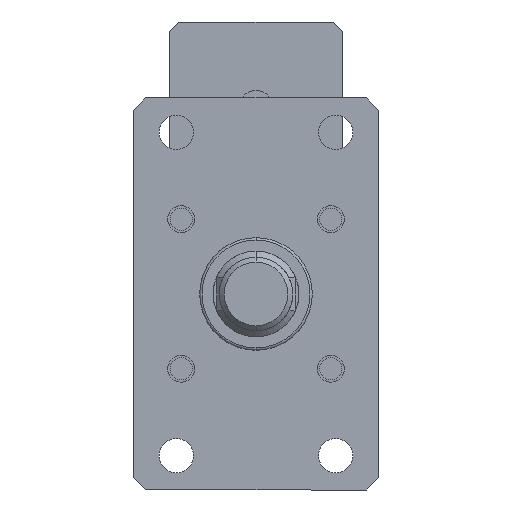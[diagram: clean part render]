
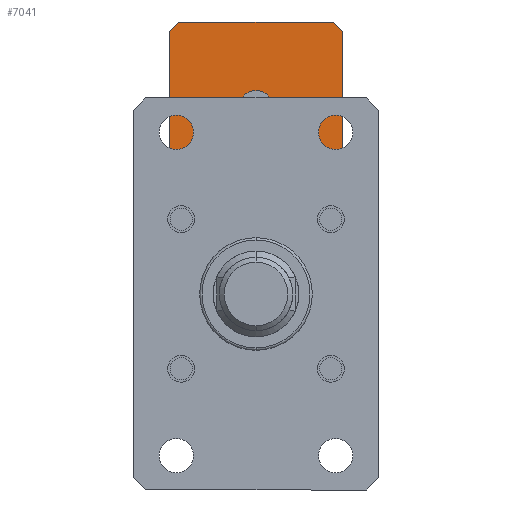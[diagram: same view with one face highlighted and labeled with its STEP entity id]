
A CAD part, front view. The second image highlights one B-rep face of the part: STEP entity #7041.
In plain terms, the highlighted planar face has unit normal (0, -1, 0).
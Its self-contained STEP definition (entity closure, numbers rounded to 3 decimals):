
#180 = CARTESIAN_POINT ( 'NONE',  ( -31.5, 260., 111. ) ) ;
#206 = ORIENTED_EDGE ( 'NONE', *, *, #6447, .T. ) ;
#386 = VECTOR ( 'NONE', #1505, 1000. ) ;
#566 = EDGE_CURVE ( 'NONE', #1310, #7000, #2144, .T. ) ;
#680 = DIRECTION ( 'NONE',  ( -0.707, 0., -0.707 ) ) ;
#701 = EDGE_CURVE ( 'NONE', #982, #3242, #1027, .T. ) ;
#706 = DIRECTION ( 'NONE',  ( 0., 0., -1. ) ) ;
#842 = CARTESIAN_POINT ( 'NONE',  ( 0., 260., 68. ) ) ;
#982 = VERTEX_POINT ( 'NONE', #2552 ) ;
#1027 = LINE ( 'NONE', #4876, #2406 ) ;
#1055 = CARTESIAN_POINT ( 'NONE',  ( 35.5, 260., 111. ) ) ;
#1138 = ORIENTED_EDGE ( 'NONE', *, *, #6400, .T. ) ;
#1310 = VERTEX_POINT ( 'NONE', #5130 ) ;
#1505 = DIRECTION ( 'NONE',  ( 0.707, 0., 0.707 ) ) ;
#1611 = CARTESIAN_POINT ( 'NONE',  ( -35.5, 260., 111. ) ) ;
#1628 = EDGE_CURVE ( 'NONE', #4103, #3195, #3230, .T. ) ;
#1644 = DIRECTION ( 'NONE',  ( 0., -1., 0. ) ) ;
#1655 = DIRECTION ( 'NONE',  ( 0., 0., -1. ) ) ;
#1659 = VERTEX_POINT ( 'NONE', #842 ) ;
#1776 = DIRECTION ( 'NONE',  ( 0., -1., 0. ) ) ;
#1791 = ORIENTED_EDGE ( 'NONE', *, *, #1628, .T. ) ;
#1815 = EDGE_CURVE ( 'NONE', #4862, #1659, #5973, .T. ) ;
#1866 = EDGE_LOOP ( 'NONE', ( #206, #3656, #2115, #5417, #3407, #1791, #6721, #1138 ) ) ;
#1884 = CARTESIAN_POINT ( 'NONE',  ( -31.5, 260., 111. ) ) ;
#1932 = DIRECTION ( 'NONE',  ( 0.707, 0., -0.707 ) ) ;
#2115 = ORIENTED_EDGE ( 'NONE', *, *, #4277, .T. ) ;
#2144 = LINE ( 'NONE', #6846, #386 ) ;
#2299 = CARTESIAN_POINT ( 'NONE',  ( -35.5, 260., 111. ) ) ;
#2380 = FACE_OUTER_BOUND ( 'NONE', #1866, .T. ) ;
#2406 = VECTOR ( 'NONE', #1932, 1000. ) ;
#2503 = CARTESIAN_POINT ( 'NONE',  ( -35.5, 260., 111. ) ) ;
#2513 = VERTEX_POINT ( 'NONE', #5570 ) ;
#2552 = CARTESIAN_POINT ( 'NONE',  ( -35.5, 260., 44. ) ) ;
#2613 = VECTOR ( 'NONE', #7048, 1000. ) ;
#2782 = VECTOR ( 'NONE', #1655, 1000. ) ;
#3032 = VECTOR ( 'NONE', #680, 1000. ) ;
#3175 = DIRECTION ( 'NONE',  ( -0.707, 0., 0.707 ) ) ;
#3190 = EDGE_CURVE ( 'NONE', #7660, #3195, #7351, .T. ) ;
#3195 = VERTEX_POINT ( 'NONE', #7600 ) ;
#3230 = LINE ( 'NONE', #4368, #6221 ) ;
#3242 = VERTEX_POINT ( 'NONE', #4133 ) ;
#3251 = CARTESIAN_POINT ( 'NONE',  ( 0., 260., 83. ) ) ;
#3407 = ORIENTED_EDGE ( 'NONE', *, *, #5737, .F. ) ;
#3416 = CARTESIAN_POINT ( 'NONE',  ( 35.5, 260., 44. ) ) ;
#3476 = DIRECTION ( 'NONE',  ( 0., 1., 0. ) ) ;
#3656 = ORIENTED_EDGE ( 'NONE', *, *, #701, .T. ) ;
#3728 = AXIS2_PLACEMENT_3D ( 'NONE', #2299, #3476, #7657 ) ;
#4103 = VERTEX_POINT ( 'NONE', #5527 ) ;
#4133 = CARTESIAN_POINT ( 'NONE',  ( -31.5, 260., 40. ) ) ;
#4170 = LINE ( 'NONE', #4551, #5386 ) ;
#4277 = EDGE_CURVE ( 'NONE', #3242, #1310, #4170, .T. ) ;
#4320 = CIRCLE ( 'NONE', #5914, 7.5 ) ;
#4368 = CARTESIAN_POINT ( 'NONE',  ( 31.5, 260., 111. ) ) ;
#4551 = CARTESIAN_POINT ( 'NONE',  ( -35.5, 260., 40. ) ) ;
#4617 = LINE ( 'NONE', #2503, #7411 ) ;
#4653 = PLANE ( 'NONE',  #3728 ) ;
#4862 = VERTEX_POINT ( 'NONE', #3251 ) ;
#4876 = CARTESIAN_POINT ( 'NONE',  ( -35.5, 260., 44. ) ) ;
#5059 = EDGE_LOOP ( 'NONE', ( #7560, #6179 ) ) ;
#5130 = CARTESIAN_POINT ( 'NONE',  ( 31.5, 260., 40. ) ) ;
#5140 = DIRECTION ( 'NONE',  ( 1., 0., 0. ) ) ;
#5182 = CARTESIAN_POINT ( 'NONE',  ( 0., 260., 75.5 ) ) ;
#5320 = CARTESIAN_POINT ( 'NONE',  ( 0., 260., 75.5 ) ) ;
#5386 = VECTOR ( 'NONE', #5140, 1000. ) ;
#5417 = ORIENTED_EDGE ( 'NONE', *, *, #566, .T. ) ;
#5527 = CARTESIAN_POINT ( 'NONE',  ( 35.5, 260., 107. ) ) ;
#5570 = CARTESIAN_POINT ( 'NONE',  ( -35.5, 260., 107. ) ) ;
#5722 = FACE_BOUND ( 'NONE', #5059, .T. ) ;
#5737 = EDGE_CURVE ( 'NONE', #4103, #7000, #7517, .T. ) ;
#5785 = DIRECTION ( 'NONE',  ( 0., 0., -1. ) ) ;
#5914 = AXIS2_PLACEMENT_3D ( 'NONE', #5320, #1776, #5921 ) ;
#5921 = DIRECTION ( 'NONE',  ( 0., 0., -1. ) ) ;
#5973 = CIRCLE ( 'NONE', #6590, 7.5 ) ;
#6179 = ORIENTED_EDGE ( 'NONE', *, *, #1815, .F. ) ;
#6221 = VECTOR ( 'NONE', #3175, 1000. ) ;
#6309 = EDGE_CURVE ( 'NONE', #1659, #4862, #4320, .T. ) ;
#6387 = LINE ( 'NONE', #1884, #3032 ) ;
#6400 = EDGE_CURVE ( 'NONE', #7660, #2513, #6387, .T. ) ;
#6447 = EDGE_CURVE ( 'NONE', #2513, #982, #4617, .T. ) ;
#6590 = AXIS2_PLACEMENT_3D ( 'NONE', #5182, #1644, #5785 ) ;
#6721 = ORIENTED_EDGE ( 'NONE', *, *, #3190, .F. ) ;
#6846 = CARTESIAN_POINT ( 'NONE',  ( 35.5, 260., 44. ) ) ;
#7000 = VERTEX_POINT ( 'NONE', #3416 ) ;
#7041 = ADVANCED_FACE ( 'NONE', ( #5722, #2380 ), #4653, .F. ) ;
#7048 = DIRECTION ( 'NONE',  ( 1., 0., 0. ) ) ;
#7351 = LINE ( 'NONE', #1611, #2613 ) ;
#7411 = VECTOR ( 'NONE', #706, 1000. ) ;
#7517 = LINE ( 'NONE', #1055, #2782 ) ;
#7560 = ORIENTED_EDGE ( 'NONE', *, *, #6309, .F. ) ;
#7600 = CARTESIAN_POINT ( 'NONE',  ( 31.5, 260., 111. ) ) ;
#7657 = DIRECTION ( 'NONE',  ( 0., 0., 1. ) ) ;
#7660 = VERTEX_POINT ( 'NONE', #180 ) ;
